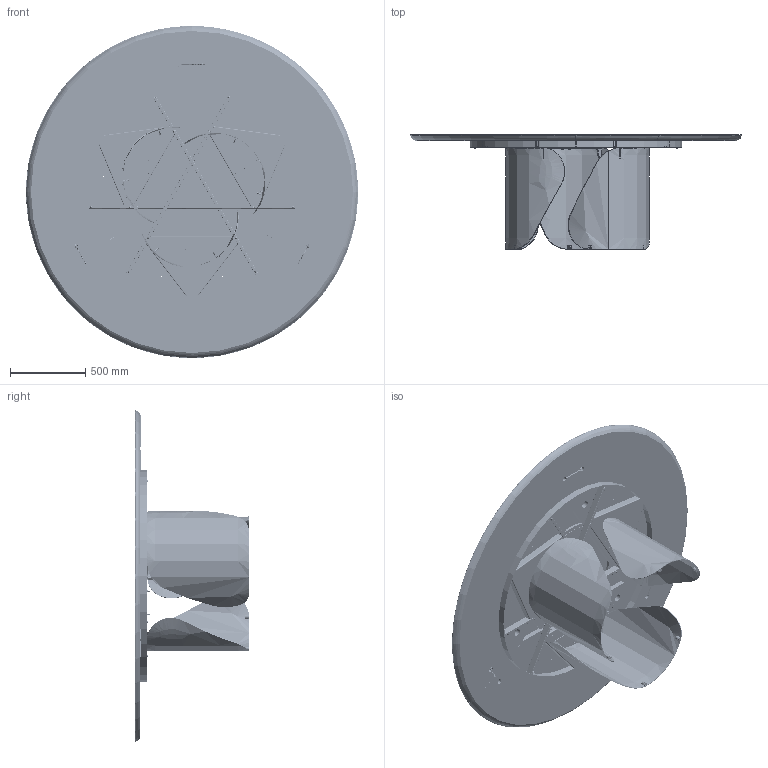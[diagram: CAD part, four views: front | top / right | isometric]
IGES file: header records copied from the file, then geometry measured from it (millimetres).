
Start section: SolidWorks IGES file using analytic representation for surfaces
Global section: file name: Y:\eforma\TECNICO\SOLIDWORKS\E-FORMA\1-TAVOLI\ONDA\08 modelli 3D web\ON18L_Onda_d.220_WoodCeramic.IGS; native system: SolidWorks 2022; preprocessor: SolidWorks 2022; author: eforma.tech; date: 240801.140323; units: millimetre
Bounding box: 2199.96 x 759.25 x 2200.25 mm (x, y, z)
Volume: 140652364.7 mm3; surface area: 16249068.8 mm2
Topology: 102 solids, 102 shells, 5055 faces, 13708 edges, 8796 vertices
Faces by surface type: revolution 3436, plane 1328, bspline 291
